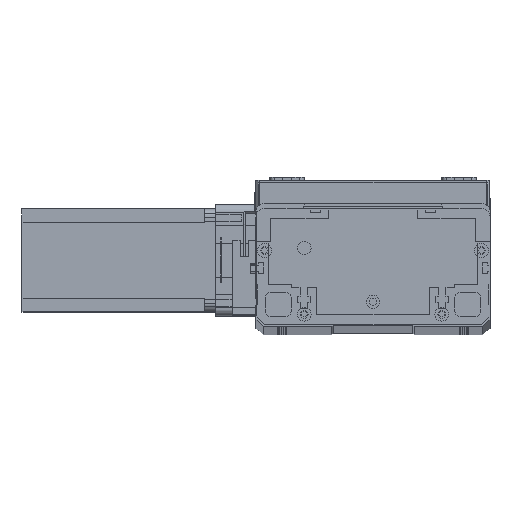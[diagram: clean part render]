
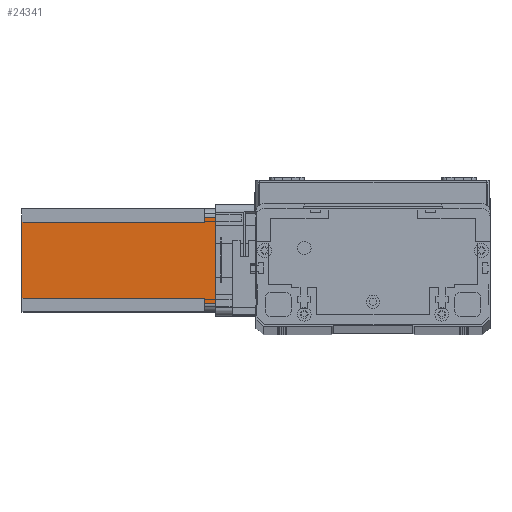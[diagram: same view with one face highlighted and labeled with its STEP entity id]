
A CAD part, top view. The second image highlights one B-rep face of the part: STEP entity #24341.
In plain terms, the highlighted planar face has unit normal (0, 0, 1) as drawn and (0, -1, 0) by its records, which use the part's own axes.
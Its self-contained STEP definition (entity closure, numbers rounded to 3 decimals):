
#308 = DIRECTION ( 'NONE',  ( 0., 0., 1. ) ) ;
#536 = LINE ( 'NONE', #9514, #1211 ) ;
#1211 = VECTOR ( 'NONE', #9627, 1000. ) ;
#1229 = CARTESIAN_POINT ( 'NONE',  ( 52., 0., -112.5 ) ) ;
#1437 = CARTESIAN_POINT ( 'NONE',  ( 5., 0., -6.5 ) ) ;
#1618 = EDGE_CURVE ( 'NONE', #16166, #4657, #4559, .T. ) ;
#1654 = VERTEX_POINT ( 'NONE', #1437 ) ;
#1794 = LINE ( 'NONE', #10617, #23785 ) ;
#2963 = VERTEX_POINT ( 'NONE', #7168 ) ;
#3482 = LINE ( 'NONE', #20227, #13500 ) ;
#4559 = LINE ( 'NONE', #7368, #26421 ) ;
#4657 = VERTEX_POINT ( 'NONE', #7614 ) ;
#4823 = VECTOR ( 'NONE', #308, 1000. ) ;
#5258 = DIRECTION ( 'NONE',  ( 0., 0., 1. ) ) ;
#5334 = ORIENTED_EDGE ( 'NONE', *, *, #25435, .F. ) ;
#6496 = FACE_OUTER_BOUND ( 'NONE', #11989, .T. ) ;
#7031 = CARTESIAN_POINT ( 'NONE',  ( 8., 0., -112.5 ) ) ;
#7168 = CARTESIAN_POINT ( 'NONE',  ( 8., 0., -6.5 ) ) ;
#7368 = CARTESIAN_POINT ( 'NONE',  ( 0., 0., 0. ) ) ;
#7614 = CARTESIAN_POINT ( 'NONE',  ( 55., 0., 0. ) ) ;
#8366 = EDGE_CURVE ( 'NONE', #16166, #1654, #536, .T. ) ;
#8410 = EDGE_CURVE ( 'NONE', #2963, #1654, #15646, .T. ) ;
#8683 = DIRECTION ( 'NONE',  ( -1., 0., 0. ) ) ;
#8725 = CARTESIAN_POINT ( 'NONE',  ( 8., 0., -6.5 ) ) ;
#9091 = DIRECTION ( 'NONE',  ( 1., 0., 0. ) ) ;
#9191 = EDGE_CURVE ( 'NONE', #17192, #19197, #19550, .T. ) ;
#9267 = CARTESIAN_POINT ( 'NONE',  ( 52., 0., -6.5 ) ) ;
#9344 = EDGE_CURVE ( 'NONE', #19197, #4657, #3482, .T. ) ;
#9514 = CARTESIAN_POINT ( 'NONE',  ( 5., 0., -112.5 ) ) ;
#9627 = DIRECTION ( 'NONE',  ( 0., 0., -1. ) ) ;
#10112 = CARTESIAN_POINT ( 'NONE',  ( 0., 0., -112.5 ) ) ;
#10498 = LINE ( 'NONE', #15243, #4823 ) ;
#10617 = CARTESIAN_POINT ( 'NONE',  ( 0., 0., -112.5 ) ) ;
#11819 = CARTESIAN_POINT ( 'NONE',  ( 55., 0., -6.5 ) ) ;
#11989 = EDGE_LOOP ( 'NONE', ( #22412, #22970, #24181, #22582, #25745, #17722, #14705, #5334 ) ) ;
#12254 = DIRECTION ( 'NONE',  ( 0., -1., 0. ) ) ;
#12485 = VECTOR ( 'NONE', #20521, 1000. ) ;
#13151 = LINE ( 'NONE', #1229, #12485 ) ;
#13500 = VECTOR ( 'NONE', #5258, 1000. ) ;
#13847 = VECTOR ( 'NONE', #15494, 1000. ) ;
#14705 = ORIENTED_EDGE ( 'NONE', *, *, #25058, .T. ) ;
#15046 = DIRECTION ( 'NONE',  ( 1., 0., 0. ) ) ;
#15243 = CARTESIAN_POINT ( 'NONE',  ( 8., 0., -112.5 ) ) ;
#15494 = DIRECTION ( 'NONE',  ( 1., 0., 0. ) ) ;
#15646 = LINE ( 'NONE', #8725, #21298 ) ;
#16166 = VERTEX_POINT ( 'NONE', #27290 ) ;
#17192 = VERTEX_POINT ( 'NONE', #9267 ) ;
#17298 = VERTEX_POINT ( 'NONE', #24479 ) ;
#17722 = ORIENTED_EDGE ( 'NONE', *, *, #25138, .F. ) ;
#18978 = AXIS2_PLACEMENT_3D ( 'NONE', #10112, #12254, #26986 ) ;
#19197 = VERTEX_POINT ( 'NONE', #11819 ) ;
#19550 = LINE ( 'NONE', #23879, #13847 ) ;
#20227 = CARTESIAN_POINT ( 'NONE',  ( 55., 0., -112.5 ) ) ;
#20521 = DIRECTION ( 'NONE',  ( 0., 0., -1. ) ) ;
#21298 = VECTOR ( 'NONE', #8683, 1000. ) ;
#22412 = ORIENTED_EDGE ( 'NONE', *, *, #9191, .T. ) ;
#22582 = ORIENTED_EDGE ( 'NONE', *, *, #8366, .T. ) ;
#22970 = ORIENTED_EDGE ( 'NONE', *, *, #9344, .T. ) ;
#23758 = VERTEX_POINT ( 'NONE', #7031 ) ;
#23785 = VECTOR ( 'NONE', #15046, 1000. ) ;
#23879 = CARTESIAN_POINT ( 'NONE',  ( 52., 0., -6.5 ) ) ;
#24181 = ORIENTED_EDGE ( 'NONE', *, *, #1618, .F. ) ;
#24341 = ADVANCED_FACE ( 'NONE', ( #6496 ), #24835, .T. ) ;
#24479 = CARTESIAN_POINT ( 'NONE',  ( 52., 0., -112.5 ) ) ;
#24835 = PLANE ( 'NONE',  #18978 ) ;
#25058 = EDGE_CURVE ( 'NONE', #23758, #17298, #1794, .T. ) ;
#25138 = EDGE_CURVE ( 'NONE', #23758, #2963, #10498, .T. ) ;
#25435 = EDGE_CURVE ( 'NONE', #17192, #17298, #13151, .T. ) ;
#25745 = ORIENTED_EDGE ( 'NONE', *, *, #8410, .F. ) ;
#26421 = VECTOR ( 'NONE', #9091, 1000. ) ;
#26986 = DIRECTION ( 'NONE',  ( 0., 0., -1. ) ) ;
#27290 = CARTESIAN_POINT ( 'NONE',  ( 5., 0., 0. ) ) ;
